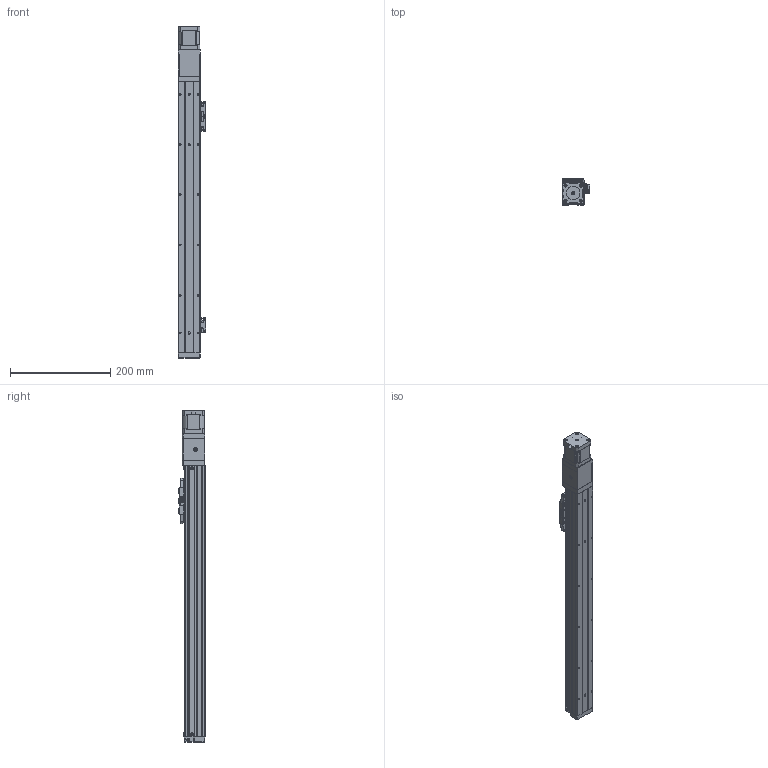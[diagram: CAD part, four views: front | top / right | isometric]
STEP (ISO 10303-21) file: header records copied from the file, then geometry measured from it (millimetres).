
FILE_DESCRIPTION (( 'STEP AP203' ), '1' );
FILE_NAME ('GTH4-400-BC-B42-C4.step', '2023-02-14T00:15:09', ( '微软用户' ), ( '微软中国' ), 'SwSTEP 2.0', 'SolidWorks 2020', '' );
FILE_SCHEMA (( 'CONFIG_CONTROL_DESIGN' ));
Length unit declared in the file: millimetre
Products named in the file (19): BTH40-001-50_BTH40-001-400; BTH50-024; GBT 70.3-M3℅6; BTH40-003; GBT 70.1-M3℅6; BTH40-017; BTH40-006; GBT96.1-2002 3×0.8; BTH40-005-1; BTH-M3X5X6; BTH40-022; 42CM06; GBT70.1-2000 M3×16; GBT 70.1-M2.5×6; GTH4-400-BC-B42-C4; BTH50-028; BTH40-004; BTH50-023; BTH40-013
Assembly tree (49 placements, depth 2):
  GTH4-400-BC-B42-C4
    BTH40-001-50_BTH40-001-400
    BTH40-003
    BTH40-006
    BTH-M3X5X6  x10
    GBT70.1-2000 M3×16  x4
    BTH50-028  x2
    BTH50-023  x3
    BTH50-024  x3
    GBT 70.1-M3℅6  x6
    GBT96.1-2002 3×0.8  x6
    BTH40-022
    GBT 70.1-M2.5×6  x2
    BTH40-004
    BTH40-013
    GBT 70.3-M3℅6  x4
    BTH40-017
    BTH40-005-1
    42CM06
Bounding box: 55.2 x 52 x 661 mm (x, y, z)
Volume: 1012459.6 mm3; surface area: 218314.1 mm2
Topology: 58 solids, 58 shells, 3294 faces, 7694 edges, 4620 vertices
Faces by surface type: cone 1475, plane 1112, cylinder 543, torus 128, bspline 24, sphere 12
Entity records: 75534 total; most frequent: DIRECTION 13465, CARTESIAN_POINT 13205, ORIENTED_EDGE 11850, EDGE_CURVE 5925, AXIS2_PLACEMENT_3D 5107, VERTEX_POINT 3551, VECTOR 3251, LINE 3251
